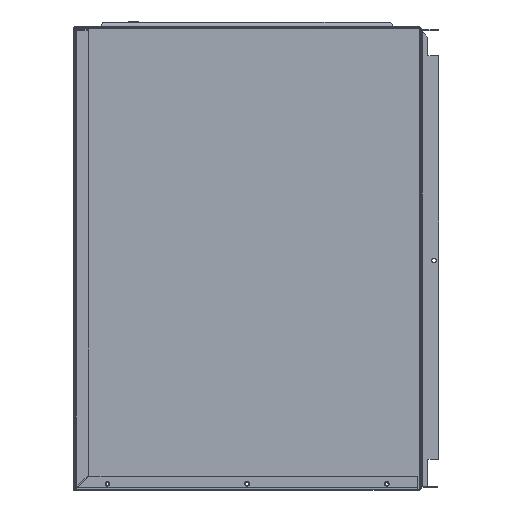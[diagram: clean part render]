
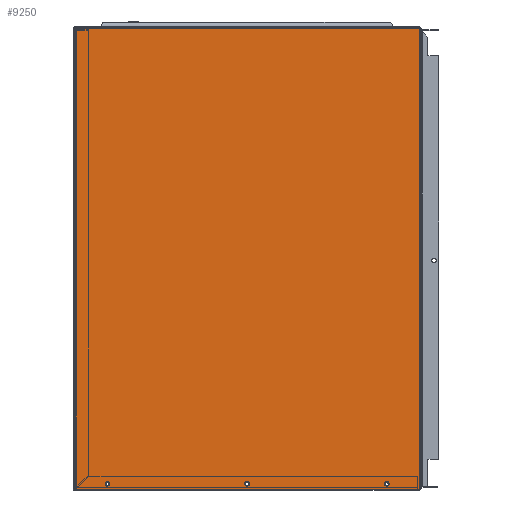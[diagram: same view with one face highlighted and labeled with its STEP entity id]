
A CAD part, left-side view. The second image highlights one B-rep face of the part: STEP entity #9250.
In plain terms, the highlighted planar face has unit normal (0, -1, 0) by its records, which use the part's own axes.
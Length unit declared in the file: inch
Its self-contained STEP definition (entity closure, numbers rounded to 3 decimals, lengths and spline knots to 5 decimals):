
#121 = CIRCLE ( 'NONE', #16651, 0.09375 ) ;
#202 = CARTESIAN_POINT ( 'NONE',  ( 10.32513, 27.41021, 18.5 ) ) ;
#386 = ORIENTED_EDGE ( 'NONE', *, *, #7088, .F. ) ;
#448 = ORIENTED_EDGE ( 'NONE', *, *, #5904, .F. ) ;
#613 = CARTESIAN_POINT ( 'NONE',  ( 15.95013, 27.41021, 18.5 ) ) ;
#727 = VECTOR ( 'NONE', #17565, 39.37008 ) ;
#875 = ORIENTED_EDGE ( 'NONE', *, *, #2084, .F. ) ;
#946 = CARTESIAN_POINT ( 'NONE',  ( 9.03501, 27.41021, 0.08552 ) ) ;
#1699 = LINE ( 'NONE', #17981, #12124 ) ;
#1896 = CARTESIAN_POINT ( 'NONE',  ( 22.87348, 27.41021, 18.65625 ) ) ;
#2084 = EDGE_CURVE ( 'NONE', #16992, #5108, #121, .T. ) ;
#2111 = LINE ( 'NONE', #17783, #18638 ) ;
#2175 = EDGE_CURVE ( 'NONE', #14057, #12000, #10373, .T. ) ;
#2208 = EDGE_CURVE ( 'NONE', #14281, #15993, #15429, .T. ) ;
#2444 = VECTOR ( 'NONE', #10815, 39.37008 ) ;
#2759 = VECTOR ( 'NONE', #7284, 39.37008 ) ;
#2814 = DIRECTION ( 'NONE',  ( 0., 0., -1. ) ) ;
#3080 = ORIENTED_EDGE ( 'NONE', *, *, #7051, .F. ) ;
#3429 = LINE ( 'NONE', #17763, #4997 ) ;
#3853 = LINE ( 'NONE', #17434, #16141 ) ;
#4325 = ORIENTED_EDGE ( 'NONE', *, *, #6993, .F. ) ;
#4997 = VECTOR ( 'NONE', #17692, 39.37008 ) ;
#5108 = VERTEX_POINT ( 'NONE', #613 ) ;
#5854 = EDGE_CURVE ( 'NONE', #6097, #5993, #18900, .T. ) ;
#5904 = EDGE_CURVE ( 'NONE', #6076, #7011, #18954, .T. ) ;
#5993 = VERTEX_POINT ( 'NONE', #16693 ) ;
#5998 = LINE ( 'NONE', #17644, #727 ) ;
#6076 = VERTEX_POINT ( 'NONE', #1896 ) ;
#6097 = VERTEX_POINT ( 'NONE', #946 ) ;
#6174 = AXIS2_PLACEMENT_3D ( 'NONE', #7019, #6975, #6819 ) ;
#6311 = CIRCLE ( 'NONE', #8816, 0.09375 ) ;
#6578 = EDGE_CURVE ( 'NONE', #8902, #6097, #15387, .T. ) ;
#6584 = ORIENTED_EDGE ( 'NONE', *, *, #6963, .F. ) ;
#6750 = ORIENTED_EDGE ( 'NONE', *, *, #2175, .F. ) ;
#6819 = DIRECTION ( 'NONE',  ( 0., 0., 1. ) ) ;
#6963 = EDGE_CURVE ( 'NONE', #15993, #14281, #12804, .T. ) ;
#6971 = EDGE_CURVE ( 'NONE', #12000, #14057, #14270, .T. ) ;
#6975 = DIRECTION ( 'NONE',  ( 0., 1., 0. ) ) ;
#6993 = EDGE_CURVE ( 'NONE', #5108, #16992, #6311, .T. ) ;
#7011 = VERTEX_POINT ( 'NONE', #18111 ) ;
#7019 = CARTESIAN_POINT ( 'NONE',  ( 23.28353, 27.41021, 17.42187 ) ) ;
#7033 = EDGE_CURVE ( 'NONE', #7011, #11615, #1699, .T. ) ;
#7051 = EDGE_CURVE ( 'NONE', #5993, #6076, #2111, .T. ) ;
#7056 = EDGE_CURVE ( 'NONE', #18993, #8902, #3429, .T. ) ;
#7059 = EDGE_CURVE ( 'NONE', #18993, #15080, #5998, .T. ) ;
#7088 = EDGE_CURVE ( 'NONE', #11615, #15080, #3853, .T. ) ;
#7193 = EDGE_LOOP ( 'NONE', ( #6584, #11589 ) ) ;
#7280 = CARTESIAN_POINT ( 'NONE',  ( 23.28353, 27.41021, 0.08552 ) ) ;
#7282 = PLANE ( 'NONE',  #6174 ) ;
#7284 = DIRECTION ( 'NONE',  ( -1., 0., 0. ) ) ;
#7470 = FACE_BOUND ( 'NONE', #18725, .T. ) ;
#7641 = FACE_BOUND ( 'NONE', #13327, .T. ) ;
#7725 = FACE_OUTER_BOUND ( 'NONE', #20077, .T. ) ;
#7776 = FACE_BOUND ( 'NONE', #7193, .T. ) ;
#8816 = AXIS2_PLACEMENT_3D ( 'NONE', #18155, #18139, #18113 ) ;
#8839 = AXIS2_PLACEMENT_3D ( 'NONE', #18389, #18370, #18368 ) ;
#8843 = AXIS2_PLACEMENT_3D ( 'NONE', #18473, #18450, #18432 ) ;
#8902 = VERTEX_POINT ( 'NONE', #18103 ) ;
#9250 = ADVANCED_FACE ( 'NONE', ( #7776, #7470, #7641, #7725 ), #7282, .F. ) ;
#9334 = ORIENTED_EDGE ( 'NONE', *, *, #5854, .F. ) ;
#9754 = CARTESIAN_POINT ( 'NONE',  ( 10.32513, 27.41021, 18.3125 ) ) ;
#10340 = CARTESIAN_POINT ( 'NONE',  ( 15.95013, 27.41021, 18.3125 ) ) ;
#10373 = CIRCLE ( 'NONE', #16479, 0.09375 ) ;
#10815 = DIRECTION ( 'NONE',  ( 0., 0., 1. ) ) ;
#10839 = CARTESIAN_POINT ( 'NONE',  ( 9.03501, 27.41021, 17.42187 ) ) ;
#11589 = ORIENTED_EDGE ( 'NONE', *, *, #2208, .F. ) ;
#11615 = VERTEX_POINT ( 'NONE', #13027 ) ;
#12000 = VERTEX_POINT ( 'NONE', #20063 ) ;
#12124 = VECTOR ( 'NONE', #17961, 39.37008 ) ;
#12804 = CIRCLE ( 'NONE', #8843, 0.09375 ) ;
#13027 = CARTESIAN_POINT ( 'NONE',  ( 22.86461, 27.41021, 0.08552 ) ) ;
#13327 = EDGE_LOOP ( 'NONE', ( #4325, #875 ) ) ;
#14045 = CARTESIAN_POINT ( 'NONE',  ( 22.86461, 27.41021, 0.08487 ) ) ;
#14057 = VERTEX_POINT ( 'NONE', #16895 ) ;
#14270 = CIRCLE ( 'NONE', #8839, 0.09375 ) ;
#14281 = VERTEX_POINT ( 'NONE', #9754 ) ;
#14537 = DIRECTION ( 'NONE',  ( 0., 0., 1. ) ) ;
#14557 = DIRECTION ( 'NONE',  ( 0., -1., 0. ) ) ;
#14583 = CARTESIAN_POINT ( 'NONE',  ( 10.32513, 27.41021, 18.40625 ) ) ;
#14635 = CARTESIAN_POINT ( 'NONE',  ( 22.87348, 27.41021, 17.42187 ) ) ;
#14905 = DIRECTION ( 'NONE',  ( 0., 0., 1. ) ) ;
#14925 = DIRECTION ( 'NONE',  ( 0., -1., 0. ) ) ;
#14928 = CARTESIAN_POINT ( 'NONE',  ( 21.57513, 27.41021, 18.40625 ) ) ;
#14979 = ORIENTED_EDGE ( 'NONE', *, *, #7033, .F. ) ;
#15080 = VERTEX_POINT ( 'NONE', #14045 ) ;
#15126 = ORIENTED_EDGE ( 'NONE', *, *, #6578, .F. ) ;
#15385 = ORIENTED_EDGE ( 'NONE', *, *, #6971, .F. ) ;
#15387 = LINE ( 'NONE', #7280, #2759 ) ;
#15429 = CIRCLE ( 'NONE', #16362, 0.09375 ) ;
#15993 = VERTEX_POINT ( 'NONE', #202 ) ;
#16141 = VECTOR ( 'NONE', #17460, 39.37008 ) ;
#16362 = AXIS2_PLACEMENT_3D ( 'NONE', #14583, #14557, #14537 ) ;
#16476 = DIRECTION ( 'NONE',  ( 0., 0., 1. ) ) ;
#16479 = AXIS2_PLACEMENT_3D ( 'NONE', #14928, #14925, #14905 ) ;
#16497 = DIRECTION ( 'NONE',  ( 0., -1., 0. ) ) ;
#16541 = CARTESIAN_POINT ( 'NONE',  ( 15.95013, 27.41021, 18.40625 ) ) ;
#16651 = AXIS2_PLACEMENT_3D ( 'NONE', #16541, #16497, #16476 ) ;
#16693 = CARTESIAN_POINT ( 'NONE',  ( 9.03501, 27.41021, 18.65625 ) ) ;
#16895 = CARTESIAN_POINT ( 'NONE',  ( 21.57513, 27.41021, 18.3125 ) ) ;
#16992 = VERTEX_POINT ( 'NONE', #10340 ) ;
#17223 = ORIENTED_EDGE ( 'NONE', *, *, #7056, .F. ) ;
#17434 = CARTESIAN_POINT ( 'NONE',  ( 22.86461, 27.41021, 0.08552 ) ) ;
#17460 = DIRECTION ( 'NONE',  ( 0., 0., -1. ) ) ;
#17565 = DIRECTION ( 'NONE',  ( 1., 0., 0. ) ) ;
#17644 = CARTESIAN_POINT ( 'NONE',  ( 29.77948, 27.41021, 0.08488 ) ) ;
#17692 = DIRECTION ( 'NONE',  ( 0., 0., 1. ) ) ;
#17763 = CARTESIAN_POINT ( 'NONE',  ( 9.03566, 27.41021, 0.08552 ) ) ;
#17783 = CARTESIAN_POINT ( 'NONE',  ( 8.98566, 27.41021, 18.65625 ) ) ;
#17847 = DIRECTION ( 'NONE',  ( 1., 0., 0. ) ) ;
#17961 = DIRECTION ( 'NONE',  ( -1., 0., 0. ) ) ;
#17981 = CARTESIAN_POINT ( 'NONE',  ( 22.94898, 27.41021, 0.08552 ) ) ;
#18103 = CARTESIAN_POINT ( 'NONE',  ( 9.03566, 27.41021, 0.08552 ) ) ;
#18111 = CARTESIAN_POINT ( 'NONE',  ( 22.87348, 27.41021, 0.08552 ) ) ;
#18113 = DIRECTION ( 'NONE',  ( 0., 0., 1. ) ) ;
#18139 = DIRECTION ( 'NONE',  ( 0., -1., 0. ) ) ;
#18155 = CARTESIAN_POINT ( 'NONE',  ( 15.95013, 27.41021, 18.40625 ) ) ;
#18368 = DIRECTION ( 'NONE',  ( 0., 0., 1. ) ) ;
#18370 = DIRECTION ( 'NONE',  ( 0., -1., 0. ) ) ;
#18389 = CARTESIAN_POINT ( 'NONE',  ( 21.57513, 27.41021, 18.40625 ) ) ;
#18432 = DIRECTION ( 'NONE',  ( 0., 0., 1. ) ) ;
#18450 = DIRECTION ( 'NONE',  ( 0., -1., 0. ) ) ;
#18473 = CARTESIAN_POINT ( 'NONE',  ( 10.32513, 27.41021, 18.40625 ) ) ;
#18638 = VECTOR ( 'NONE', #17847, 39.37008 ) ;
#18725 = EDGE_LOOP ( 'NONE', ( #15385, #6750 ) ) ;
#18900 = LINE ( 'NONE', #10839, #2444 ) ;
#18954 = LINE ( 'NONE', #14635, #19388 ) ;
#18993 = VERTEX_POINT ( 'NONE', #19218 ) ;
#19218 = CARTESIAN_POINT ( 'NONE',  ( 9.03566, 27.41021, 0.08488 ) ) ;
#19388 = VECTOR ( 'NONE', #2814, 39.37008 ) ;
#19894 = ORIENTED_EDGE ( 'NONE', *, *, #7059, .T. ) ;
#20063 = CARTESIAN_POINT ( 'NONE',  ( 21.57513, 27.41021, 18.5 ) ) ;
#20077 = EDGE_LOOP ( 'NONE', ( #14979, #448, #3080, #9334, #15126, #17223, #19894, #386 ) ) ;
